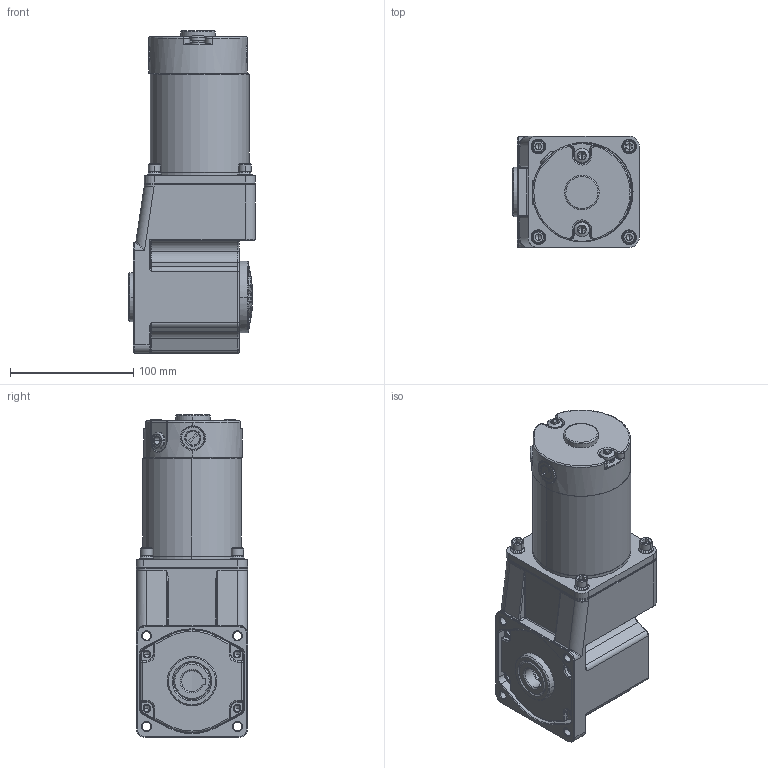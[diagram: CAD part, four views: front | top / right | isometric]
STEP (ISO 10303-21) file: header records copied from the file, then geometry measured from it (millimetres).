
FILE_DESCRIPTION (( 'STEP AP214' ), '1' );
FILE_NAME ('90-80»ú¿ÇRC.STEP', '2021-07-23T07:57:47', ( '' ), ( '' ), 'SwSTEP 2.0', 'SolidWorks 2021', '' );
FILE_SCHEMA (( 'AUTOMOTIVE_DESIGN' ));
Length unit declared in the file: millimetre
Products named in the file (9): 90-40w_asm; HOUGAI-80-1_1; 5RC; JIKE-80; TANDIAN_1; 90-80儂褲RC; PENGDIAN_1; QIGAI; LUDING_1
Assembly tree (11 placements, depth 3):
  90-80儂褲RC
    5RC
    90-40w_asm
      TANDIAN_1  x2
      PENGDIAN_1  x2
      JIKE-80
      HOUGAI-80-1_1
      QIGAI
      LUDING_1  x2
Bounding box: 102.5 x 90 x 261.5 mm (x, y, z)
Volume: 925028.2 mm3; surface area: 241360.1 mm2
Topology: 26 solids, 28 shells, 2245 faces, 5425 edges, 3213 vertices
Faces by surface type: cylinder 632, plane 540, cone 422, torus 292, bspline 279, sphere 80
Entity records: 89499 total; most frequent: CARTESIAN_POINT 40968, ORIENTED_EDGE 10414, DIRECTION 9681, EDGE_CURVE 5207, AXIS2_PLACEMENT_3D 3967, VERTEX_POINT 3118, EDGE_LOOP 2291, ADVANCED_FACE 2183
